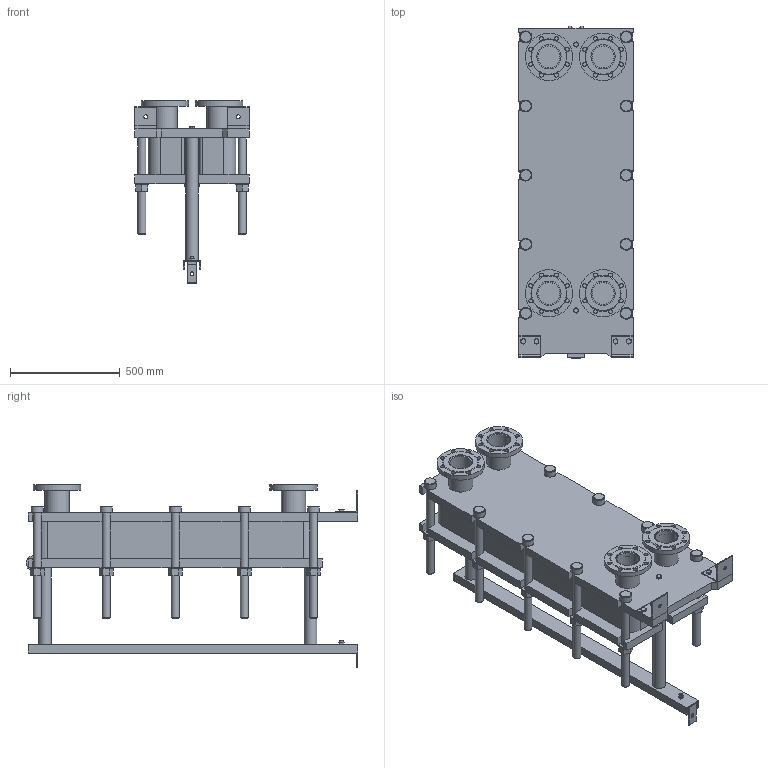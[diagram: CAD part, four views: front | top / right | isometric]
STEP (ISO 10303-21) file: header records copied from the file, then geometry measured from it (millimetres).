
FILE_DESCRIPTION(/* description */ (''),/* implementation_level */ '2;1');
FILE_NAME(/* name */ 'C:\Users\zhuro\Desktop\ENCO\TO\ЭН-04\ЭН-0,5-04-49-1.stp',/* time_stamp */ '2022-06-06T10:48:22+03:00',/* author */ ('zhuro'),/* organization */ (''),/* preprocessor_version */ 'ST-DEVELOPER v18.1',/* originating_system */ 'Autodesk Inventor 2022',/* authorisation */ '');
FILE_SCHEMA (('AUTOMOTIVE_DESIGN { 1 0 10303 214 3 1 1 }'));
Length unit declared in the file: millimetre
Products named in the file (1): ЭН-0,5-04-49-1
Bounding box: 520 x 1510 x 834.5 mm (x, y, z)
Volume: 152944200.9 mm3; surface area: 7233767.1 mm2
Topology: 45 solids, 45 shells, 668 faces, 1611 edges, 1048 vertices
Faces by surface type: plane 457, cylinder 166, cone 39, torus 6
Full cylindrical faces by diameter (mm): 8 x4, 10 x2, 16 x8, 18 x35, 36 x25, 40 x2, 42 x1, 45 x4, 54 x10, 57 x2, 60 x10, 68 x2, 100 x4, 110 x8, 215 x4
Entity records: 23607 total; most frequent: CARTESIAN_POINT 7348, DIRECTION 3371, ORIENTED_EDGE 3142, EDGE_CURVE 1571, AXIS2_PLACEMENT_3D 1199, VERTEX_POINT 1044, LINE 973, VECTOR 973
